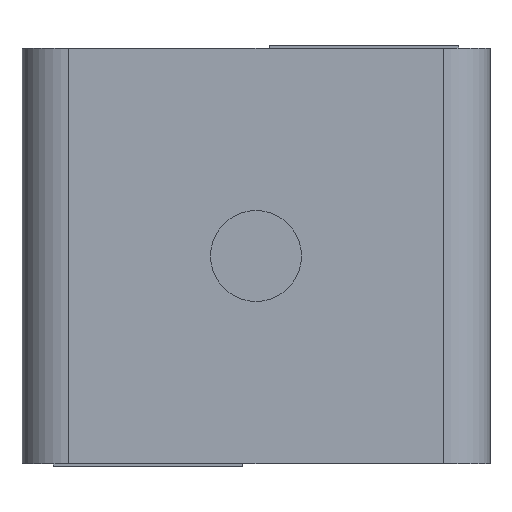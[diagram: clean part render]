
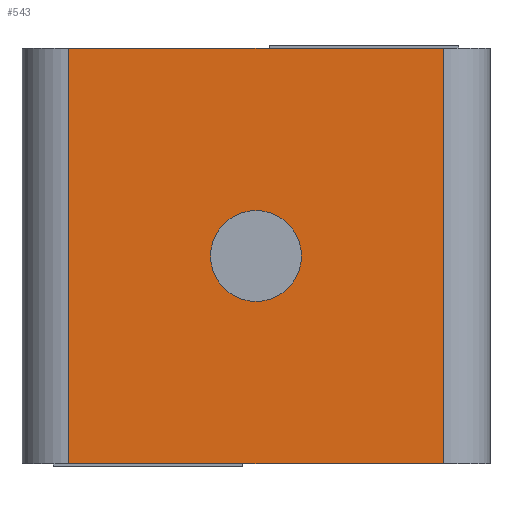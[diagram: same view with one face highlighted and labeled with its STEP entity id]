
A CAD part, front view. The second image highlights one B-rep face of the part: STEP entity #543.
In plain terms, the highlighted planar face has unit normal (0, -1, 0).
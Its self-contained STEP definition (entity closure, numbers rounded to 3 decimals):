
#43 = ORIENTED_EDGE ( 'NONE', *, *, #2377, .F. ) ;
#50 = CARTESIAN_POINT ( 'NONE',  ( 0., -37.8, -16. ) ) ;
#59 = DIRECTION ( 'NONE',  ( 0., 1., 0. ) ) ;
#71 = DIRECTION ( 'NONE',  ( 0., 0., -1. ) ) ;
#275 = VECTOR ( 'NONE', #3300, 1000. ) ;
#321 = DIRECTION ( 'NONE',  ( 0., 0., -1. ) ) ;
#356 = DIRECTION ( 'NONE',  ( -1., 0., 0. ) ) ;
#369 = VERTEX_POINT ( 'NONE', #880 ) ;
#380 = AXIS2_PLACEMENT_3D ( 'NONE', #1256, #3375, #1557 ) ;
#428 = EDGE_CURVE ( 'NONE', #2474, #369, #2118, .T. ) ;
#541 = VERTEX_POINT ( 'NONE', #2482 ) ;
#543 = ADVANCED_FACE ( 'NONE', ( #2677, #1885 ), #1278, .F. ) ;
#865 = VECTOR ( 'NONE', #356, 1000. ) ;
#880 = CARTESIAN_POINT ( 'NONE',  ( 0., -37.8, -9.75 ) ) ;
#922 = CARTESIAN_POINT ( 'NONE',  ( 0., -37.8, -8. ) ) ;
#967 = VECTOR ( 'NONE', #71, 1000. ) ;
#1076 = CARTESIAN_POINT ( 'NONE',  ( 7.2, -37.8, -16. ) ) ;
#1090 = EDGE_CURVE ( 'NONE', #3693, #2749, #2495, .T. ) ;
#1112 = CARTESIAN_POINT ( 'NONE',  ( -7.2, -37.8, -16. ) ) ;
#1175 = CARTESIAN_POINT ( 'NONE',  ( 0., -37.8, 0. ) ) ;
#1229 = ORIENTED_EDGE ( 'NONE', *, *, #428, .F. ) ;
#1234 = DIRECTION ( 'NONE',  ( 0., 0., 1. ) ) ;
#1256 = CARTESIAN_POINT ( 'NONE',  ( 0., -37.8, -8. ) ) ;
#1278 = PLANE ( 'NONE',  #3010 ) ;
#1303 = CARTESIAN_POINT ( 'NONE',  ( 0., -37.8, -6.25 ) ) ;
#1557 = DIRECTION ( 'NONE',  ( 0., 0., 1. ) ) ;
#1572 = LINE ( 'NONE', #1175, #275 ) ;
#1589 = CARTESIAN_POINT ( 'NONE',  ( -7.2, -37.8, -8. ) ) ;
#1595 = AXIS2_PLACEMENT_3D ( 'NONE', #922, #3052, #1234 ) ;
#1664 = EDGE_LOOP ( 'NONE', ( #3764, #3367, #3711, #1671 ) ) ;
#1671 = ORIENTED_EDGE ( 'NONE', *, *, #1090, .F. ) ;
#1768 = EDGE_LOOP ( 'NONE', ( #1229, #43 ) ) ;
#1842 = CARTESIAN_POINT ( 'NONE',  ( 7.2, -37.8, -8. ) ) ;
#1885 = FACE_OUTER_BOUND ( 'NONE', #1664, .T. ) ;
#1993 = EDGE_CURVE ( 'NONE', #3297, #2749, #3490, .T. ) ;
#2118 = CIRCLE ( 'NONE', #1595, 1.75 ) ;
#2190 = DIRECTION ( 'NONE',  ( 0., 0., 1. ) ) ;
#2231 = VECTOR ( 'NONE', #321, 1000. ) ;
#2377 = EDGE_CURVE ( 'NONE', #369, #2474, #2621, .T. ) ;
#2474 = VERTEX_POINT ( 'NONE', #1303 ) ;
#2482 = CARTESIAN_POINT ( 'NONE',  ( 7.2, -37.8, 0. ) ) ;
#2495 = LINE ( 'NONE', #50, #865 ) ;
#2621 = CIRCLE ( 'NONE', #380, 1.75 ) ;
#2673 = CARTESIAN_POINT ( 'NONE',  ( -7.2, -37.8, 0. ) ) ;
#2677 = FACE_BOUND ( 'NONE', #1768, .T. ) ;
#2749 = VERTEX_POINT ( 'NONE', #1112 ) ;
#2873 = EDGE_CURVE ( 'NONE', #541, #3297, #1572, .T. ) ;
#2994 = EDGE_CURVE ( 'NONE', #541, #3693, #3234, .T. ) ;
#3010 = AXIS2_PLACEMENT_3D ( 'NONE', #3699, #59, #2190 ) ;
#3052 = DIRECTION ( 'NONE',  ( 0., -1., 0. ) ) ;
#3234 = LINE ( 'NONE', #1842, #2231 ) ;
#3297 = VERTEX_POINT ( 'NONE', #2673 ) ;
#3300 = DIRECTION ( 'NONE',  ( -1., 0., 0. ) ) ;
#3367 = ORIENTED_EDGE ( 'NONE', *, *, #2873, .T. ) ;
#3375 = DIRECTION ( 'NONE',  ( 0., -1., 0. ) ) ;
#3490 = LINE ( 'NONE', #1589, #967 ) ;
#3693 = VERTEX_POINT ( 'NONE', #1076 ) ;
#3699 = CARTESIAN_POINT ( 'NONE',  ( -7.2, -37.8, -16. ) ) ;
#3711 = ORIENTED_EDGE ( 'NONE', *, *, #1993, .T. ) ;
#3764 = ORIENTED_EDGE ( 'NONE', *, *, #2994, .F. ) ;
